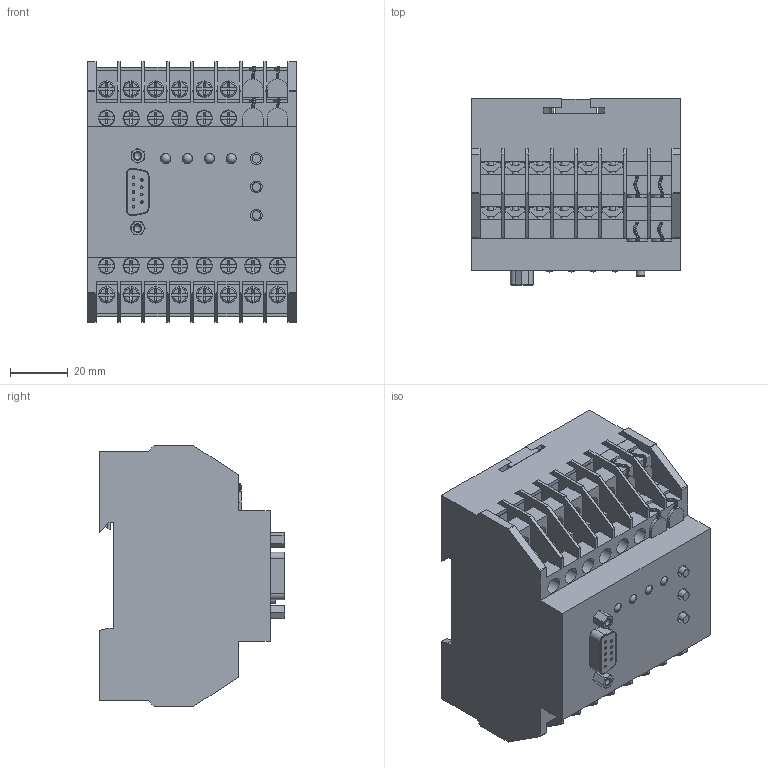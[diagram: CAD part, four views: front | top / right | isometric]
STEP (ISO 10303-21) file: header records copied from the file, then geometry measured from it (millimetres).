
FILE_DESCRIPTION((''),'2;1');
FILE_NAME('C:\Dokumente und Einstellungen\Kramp\Eigene Dateien\Microsonic Nacharbeit 2\Rest\STP\Trans-O-Prox.stp','2005-08-11T12:00:45',('Kramp'),(''),'Autodesk Inventor 7','Autodesk Inventor 7','');
FILE_SCHEMA(('AUTOMOTIVE_DESIGN { 1 0 10303 214 1 1 1 1 }'));
Length unit declared in the file: millimetre
Products named in the file (1): Trans-O-Prox
Bounding box: 72 x 64.1 x 90 mm (x, y, z)
Volume: 272659.9 mm3; surface area: 57250.2 mm2
Topology: 1 solids, 1 shells, 2267 faces, 6033 edges, 3916 vertices
Faces by surface type: plane 1334, cylinder 450, torus 286, bspline 101, cone 92, sphere 4
Entity records: 71166 total; most frequent: CARTESIAN_POINT 13774, ORIENTED_EDGE 12026, DIRECTION 11887, EDGE_CURVE 6013, VECTOR 4165, LINE 4165, VERTEX_POINT 3904, AXIS2_PLACEMENT_3D 3861
